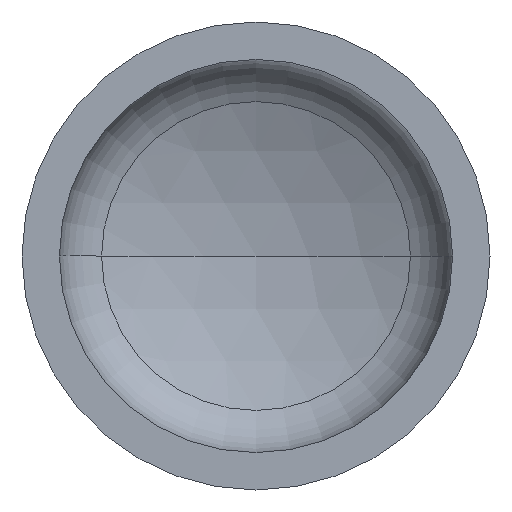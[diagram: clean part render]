
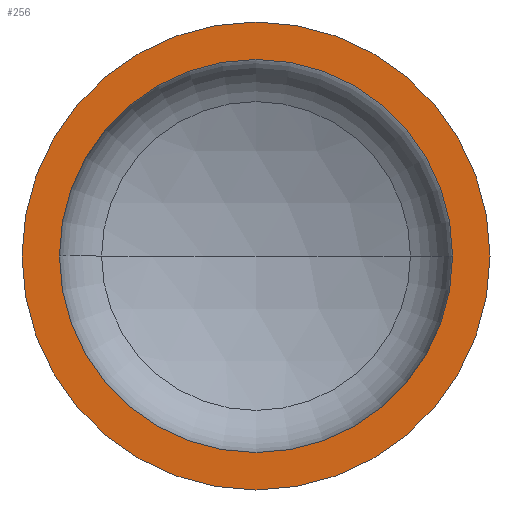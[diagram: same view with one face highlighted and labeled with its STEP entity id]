
A CAD part, front view. The second image highlights one B-rep face of the part: STEP entity #256.
In plain terms, the highlighted planar face has unit normal (0, -1, 0).
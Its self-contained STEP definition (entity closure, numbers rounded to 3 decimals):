
#1 = VERTEX_POINT ( 'NONE', #223 ) ;
#3 = CARTESIAN_POINT ( 'NONE',  ( 0., 0., 0. ) ) ;
#11 = EDGE_LOOP ( 'NONE', ( #382, #26 ) ) ;
#20 = ORIENTED_EDGE ( 'NONE', *, *, #97, .F. ) ;
#25 = VERTEX_POINT ( 'NONE', #264 ) ;
#26 = ORIENTED_EDGE ( 'NONE', *, *, #324, .T. ) ;
#63 = AXIS2_PLACEMENT_3D ( 'NONE', #257, #212, #139 ) ;
#64 = EDGE_LOOP ( 'NONE', ( #20, #125 ) ) ;
#75 = EDGE_CURVE ( 'NONE', #1, #142, #364, .T. ) ;
#82 = VERTEX_POINT ( 'NONE', #300 ) ;
#86 = CARTESIAN_POINT ( 'NONE',  ( 0., 0., 0. ) ) ;
#97 = EDGE_CURVE ( 'NONE', #142, #1, #141, .T. ) ;
#125 = ORIENTED_EDGE ( 'NONE', *, *, #75, .F. ) ;
#139 = DIRECTION ( 'NONE',  ( -1., 0., 0. ) ) ;
#141 = CIRCLE ( 'NONE', #224, 630. ) ;
#142 = VERTEX_POINT ( 'NONE', #192 ) ;
#154 = DIRECTION ( 'NONE',  ( 1., 0., 0. ) ) ;
#178 = AXIS2_PLACEMENT_3D ( 'NONE', #86, #313, #406 ) ;
#192 = CARTESIAN_POINT ( 'NONE',  ( 630., 0., 0. ) ) ;
#196 = EDGE_CURVE ( 'NONE', #25, #82, #410, .T. ) ;
#201 = AXIS2_PLACEMENT_3D ( 'NONE', #299, #296, #154 ) ;
#203 = DIRECTION ( 'NONE',  ( 1., 0., 0. ) ) ;
#212 = DIRECTION ( 'NONE',  ( 0., 1., 0. ) ) ;
#223 = CARTESIAN_POINT ( 'NONE',  ( -630., 0., 0. ) ) ;
#224 = AXIS2_PLACEMENT_3D ( 'NONE', #358, #360, #290 ) ;
#228 = PLANE ( 'NONE',  #63 ) ;
#256 = ADVANCED_FACE ( 'NONE', ( #401, #269 ), #228, .F. ) ;
#257 = CARTESIAN_POINT ( 'NONE',  ( -750., 0., 0. ) ) ;
#264 = CARTESIAN_POINT ( 'NONE',  ( 750., 0., 0. ) ) ;
#269 = FACE_OUTER_BOUND ( 'NONE', #11, .T. ) ;
#290 = DIRECTION ( 'NONE',  ( 1., 0., 0. ) ) ;
#296 = DIRECTION ( 'NONE',  ( 0., -1., 0. ) ) ;
#299 = CARTESIAN_POINT ( 'NONE',  ( 0., 0., 0. ) ) ;
#300 = CARTESIAN_POINT ( 'NONE',  ( -750., 0., 0. ) ) ;
#313 = DIRECTION ( 'NONE',  ( 0., -1., 0. ) ) ;
#315 = AXIS2_PLACEMENT_3D ( 'NONE', #3, #365, #203 ) ;
#324 = EDGE_CURVE ( 'NONE', #82, #25, #381, .T. ) ;
#358 = CARTESIAN_POINT ( 'NONE',  ( 0., 0., 0. ) ) ;
#360 = DIRECTION ( 'NONE',  ( 0., -1., 0. ) ) ;
#364 = CIRCLE ( 'NONE', #201, 630. ) ;
#365 = DIRECTION ( 'NONE',  ( 0., -1., 0. ) ) ;
#381 = CIRCLE ( 'NONE', #178, 750. ) ;
#382 = ORIENTED_EDGE ( 'NONE', *, *, #196, .T. ) ;
#401 = FACE_BOUND ( 'NONE', #64, .T. ) ;
#406 = DIRECTION ( 'NONE',  ( 1., 0., 0. ) ) ;
#410 = CIRCLE ( 'NONE', #315, 750. ) ;
